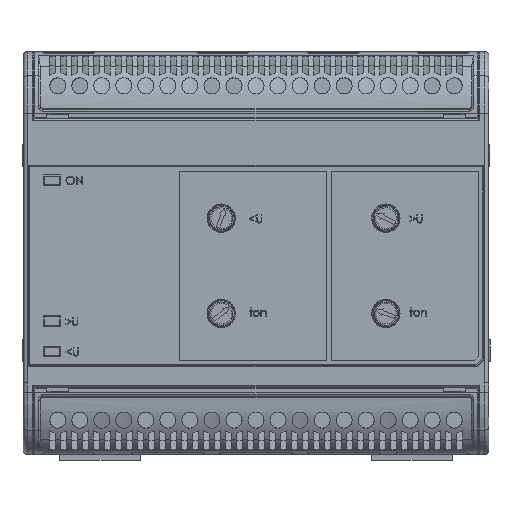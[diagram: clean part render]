
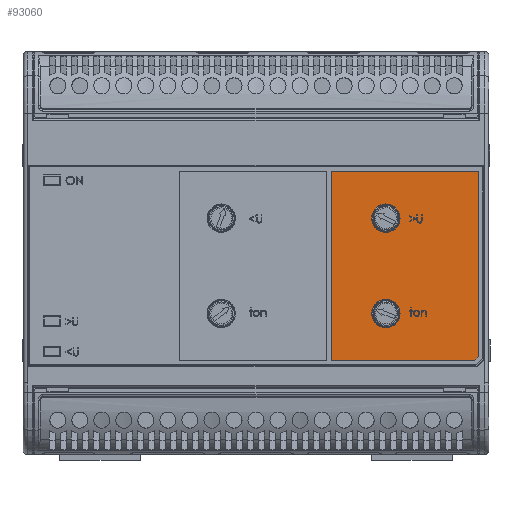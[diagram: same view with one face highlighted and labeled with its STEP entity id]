
A CAD part, top view. The second image highlights one B-rep face of the part: STEP entity #93060.
In plain terms, the highlighted planar face has unit normal (0, 0, 1).
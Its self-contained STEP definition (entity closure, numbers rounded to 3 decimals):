
#556 = CARTESIAN_POINT ( 'NONE',  ( 103.7, 44.7, 0.02 ) ) ;
#2873 = LINE ( 'NONE', #556, #73350 ) ;
#6054 = DIRECTION ( 'NONE',  ( 0., 0., 1. ) ) ;
#11893 = EDGE_CURVE ( 'NONE', #114801, #80531, #121132, .T. ) ;
#12069 = VERTEX_POINT ( 'NONE', #159519 ) ;
#13825 = CIRCLE ( 'NONE', #159902, 3.25 ) ;
#17658 = EDGE_CURVE ( 'NONE', #149734, #12069, #169215, .T. ) ;
#21278 = AXIS2_PLACEMENT_3D ( 'NONE', #75193, #168002, #88610 ) ;
#21328 = ORIENTED_EDGE ( 'NONE', *, *, #26043, .F. ) ;
#21941 = PLANE ( 'NONE',  #21278 ) ;
#26043 = EDGE_CURVE ( 'NONE', #113578, #128179, #40370, .T. ) ;
#26193 = LINE ( 'NONE', #135939, #158966 ) ;
#26261 = ORIENTED_EDGE ( 'NONE', *, *, #51681, .T. ) ;
#26937 = DIRECTION ( 'NONE',  ( 0., 0., 1. ) ) ;
#27885 = VERTEX_POINT ( 'NONE', #109716 ) ;
#28399 = CARTESIAN_POINT ( 'NONE',  ( 103.7, 1.914, 0.02 ) ) ;
#28501 = VECTOR ( 'NONE', #166098, 1000. ) ;
#38071 = VECTOR ( 'NONE', #103941, 1000. ) ;
#40370 = CIRCLE ( 'NONE', #56149, 3.25 ) ;
#45972 = CIRCLE ( 'NONE', #113259, 3.25 ) ;
#46546 = EDGE_CURVE ( 'NONE', #128179, #113578, #13825, .T. ) ;
#51681 = EDGE_CURVE ( 'NONE', #164988, #114801, #2873, .T. ) ;
#54198 = CARTESIAN_POINT ( 'NONE',  ( 82.3, 11.9, 0.02 ) ) ;
#55327 = CARTESIAN_POINT ( 'NONE',  ( 102.786, 1., 0.02 ) ) ;
#55994 = DIRECTION ( 'NONE',  ( 1., 0., 0. ) ) ;
#56149 = AXIS2_PLACEMENT_3D ( 'NONE', #106412, #26937, #119678 ) ;
#57297 = ORIENTED_EDGE ( 'NONE', *, *, #46546, .F. ) ;
#61219 = CARTESIAN_POINT ( 'NONE',  ( 85.55, 33.9, 0.02 ) ) ;
#62187 = CARTESIAN_POINT ( 'NONE',  ( 79.05, 11.9, 0.02 ) ) ;
#63753 = FACE_OUTER_BOUND ( 'NONE', #140243, .T. ) ;
#66506 = EDGE_CURVE ( 'NONE', #12069, #149734, #45972, .T. ) ;
#67528 = DIRECTION ( 'NONE',  ( 1., 0., 0. ) ) ;
#70593 = ORIENTED_EDGE ( 'NONE', *, *, #161988, .T. ) ;
#71593 = AXIS2_PLACEMENT_3D ( 'NONE', #151682, #72191, #164987 ) ;
#72191 = DIRECTION ( 'NONE',  ( 0., 0., 1. ) ) ;
#73109 = EDGE_CURVE ( 'NONE', #27885, #103407, #26193, .T. ) ;
#73350 = VECTOR ( 'NONE', #134302, 1000. ) ;
#75193 = CARTESIAN_POINT ( 'NONE',  ( 0., 0., 0.02 ) ) ;
#77060 = ORIENTED_EDGE ( 'NONE', *, *, #17658, .F. ) ;
#80531 = VERTEX_POINT ( 'NONE', #171137 ) ;
#81188 = CARTESIAN_POINT ( 'NONE',  ( 79.05, 33.9, 0.02 ) ) ;
#85480 = CARTESIAN_POINT ( 'NONE',  ( 82.3, 33.9, 0.02 ) ) ;
#88610 = DIRECTION ( 'NONE',  ( -1., 0., 0. ) ) ;
#90991 = CARTESIAN_POINT ( 'NONE',  ( 103.7, 1.914, 0.02 ) ) ;
#93060 = ADVANCED_FACE ( 'NONE', ( #169578, #63753, #134224 ), #21941, .F. ) ;
#98834 = DIRECTION ( 'NONE',  ( 1., 0., 0. ) ) ;
#99050 = LINE ( 'NONE', #152767, #28501 ) ;
#101634 = EDGE_LOOP ( 'NONE', ( #77060, #110738 ) ) ;
#103407 = VERTEX_POINT ( 'NONE', #55327 ) ;
#103941 = DIRECTION ( 'NONE',  ( -1., 0., 0. ) ) ;
#106412 = CARTESIAN_POINT ( 'NONE',  ( 82.3, 33.9, 0.02 ) ) ;
#106641 = EDGE_LOOP ( 'NONE', ( #57297, #21328 ) ) ;
#108742 = ORIENTED_EDGE ( 'NONE', *, *, #11893, .T. ) ;
#109716 = CARTESIAN_POINT ( 'NONE',  ( 69.7, 1., 0.02 ) ) ;
#110738 = ORIENTED_EDGE ( 'NONE', *, *, #66506, .F. ) ;
#113259 = AXIS2_PLACEMENT_3D ( 'NONE', #54198, #146983, #67528 ) ;
#113578 = VERTEX_POINT ( 'NONE', #61219 ) ;
#113932 = ORIENTED_EDGE ( 'NONE', *, *, #73109, .T. ) ;
#114801 = VERTEX_POINT ( 'NONE', #146592 ) ;
#117143 = VECTOR ( 'NONE', #170949, 1000. ) ;
#119678 = DIRECTION ( 'NONE',  ( 1., 0., 0. ) ) ;
#121132 = LINE ( 'NONE', #169947, #38071 ) ;
#121259 = LINE ( 'NONE', #90991, #117143 ) ;
#128179 = VERTEX_POINT ( 'NONE', #81188 ) ;
#134224 = FACE_BOUND ( 'NONE', #101634, .T. ) ;
#134302 = DIRECTION ( 'NONE',  ( 0., 1., 0. ) ) ;
#135939 = CARTESIAN_POINT ( 'NONE',  ( 102.786, 1., 0.02 ) ) ;
#137911 = ORIENTED_EDGE ( 'NONE', *, *, #158403, .T. ) ;
#140243 = EDGE_LOOP ( 'NONE', ( #137911, #26261, #108742, #70593, #113932 ) ) ;
#146592 = CARTESIAN_POINT ( 'NONE',  ( 103.7, 44.7, 0.02 ) ) ;
#146983 = DIRECTION ( 'NONE',  ( 0., 0., 1. ) ) ;
#149734 = VERTEX_POINT ( 'NONE', #62187 ) ;
#151682 = CARTESIAN_POINT ( 'NONE',  ( 82.3, 11.9, 0.02 ) ) ;
#152767 = CARTESIAN_POINT ( 'NONE',  ( 69.7, 1., 0.02 ) ) ;
#158403 = EDGE_CURVE ( 'NONE', #103407, #164988, #121259, .T. ) ;
#158966 = VECTOR ( 'NONE', #55994, 1000. ) ;
#159519 = CARTESIAN_POINT ( 'NONE',  ( 85.55, 11.9, 0.02 ) ) ;
#159902 = AXIS2_PLACEMENT_3D ( 'NONE', #85480, #6054, #98834 ) ;
#161988 = EDGE_CURVE ( 'NONE', #80531, #27885, #99050, .T. ) ;
#164987 = DIRECTION ( 'NONE',  ( 1., 0., 0. ) ) ;
#164988 = VERTEX_POINT ( 'NONE', #28399 ) ;
#166098 = DIRECTION ( 'NONE',  ( 0., -1., 0. ) ) ;
#168002 = DIRECTION ( 'NONE',  ( 0., 0., -1. ) ) ;
#169215 = CIRCLE ( 'NONE', #71593, 3.25 ) ;
#169578 = FACE_BOUND ( 'NONE', #106641, .T. ) ;
#169947 = CARTESIAN_POINT ( 'NONE',  ( 69.7, 44.7, 0.02 ) ) ;
#170949 = DIRECTION ( 'NONE',  ( 0.707, 0.707, 0. ) ) ;
#171137 = CARTESIAN_POINT ( 'NONE',  ( 69.7, 44.7, 0.02 ) ) ;
